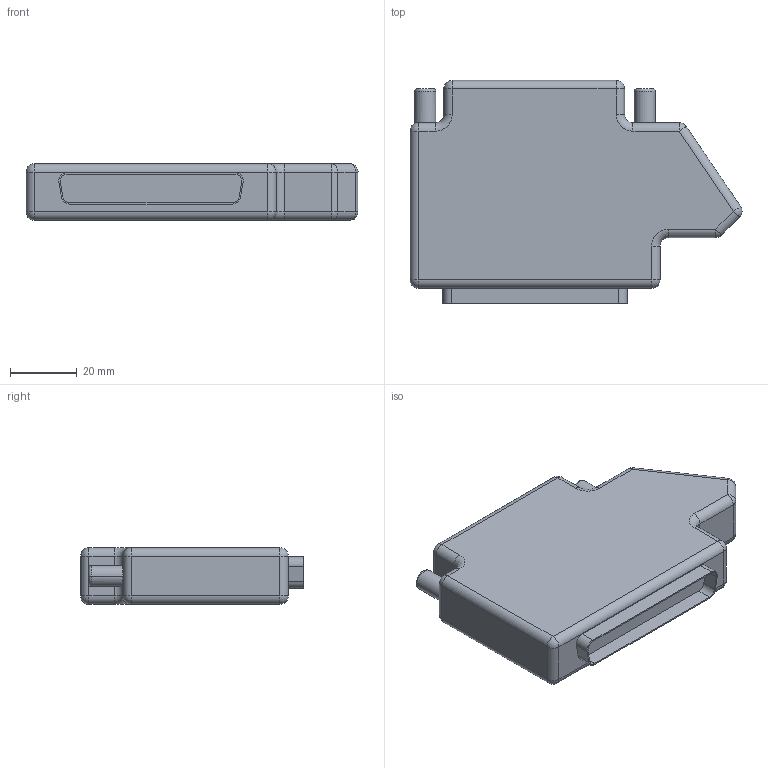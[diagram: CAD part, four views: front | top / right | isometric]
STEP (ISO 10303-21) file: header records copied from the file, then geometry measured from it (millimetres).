
FILE_DESCRIPTION((''),'2;1');
FILE_NAME('CONN_CRIO_DB_37_TB','2007-01-25T',('chrisj'),(''),'PRO/ENGINEER BY PARAMETRIC TECHNOLOGY CORPORATION, 2006080','PRO/ENGINEER BY PARAMETRIC TECHNOLOGY CORPORATION, 2006080','');
FILE_SCHEMA(('AUTOMOTIVE_DESIGN_CC2 { 1 2 10303 214 -1 1 5 2 }'));
Length unit declared in the file: inch
Products named in the file (1): CONN_CRIO_DB_37_TB
Bounding box: 99.84 x 67.06 x 17.02 mm (x, y, z)
Volume: 82546.2 mm3; surface area: 17114.7 mm2
Topology: 1 solids, 1 shells, 104 faces, 225 edges, 128 vertices
Faces by surface type: cylinder 49, plane 29, sphere 16, torus 10
Entity records: 2844 total; most frequent: DIRECTION 545, CARTESIAN_POINT 466, ORIENTED_EDGE 450, EDGE_CURVE 225, AXIS2_PLACEMENT_3D 218, VERTEX_POINT 128, CIRCLE 114, VECTOR 109
